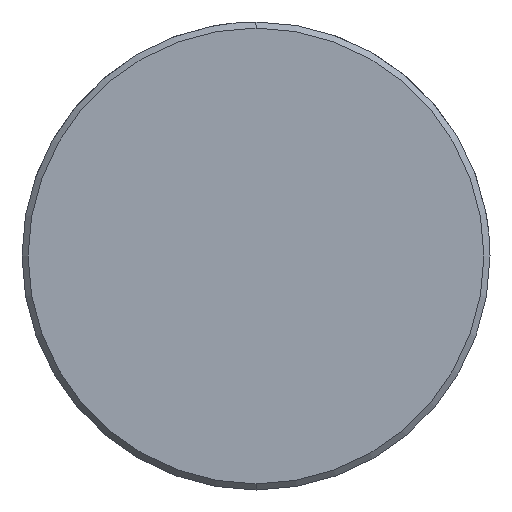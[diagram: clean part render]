
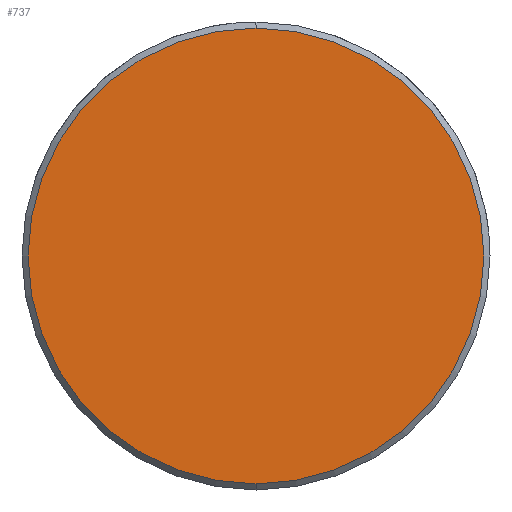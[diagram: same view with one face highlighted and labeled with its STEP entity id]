
A CAD part, left-side view. The second image highlights one B-rep face of the part: STEP entity #737.
In plain terms, the highlighted planar face has unit normal (-1, 0, 0).
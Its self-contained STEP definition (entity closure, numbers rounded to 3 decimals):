
#669=CARTESIAN_POINT('Vertex',(0.,0.,-11.2)) ;
#672=CARTESIAN_POINT('Axis2P3D Location',(0.,0.,0.)) ;
#676=CARTESIAN_POINT('Vertex',(0.,11.2,0.)) ;
#679=CARTESIAN_POINT('Axis2P3D Location',(0.,0.,0.)) ;
#683=CARTESIAN_POINT('Vertex',(0.,0.,11.2)) ;
#705=CARTESIAN_POINT('Axis2P3D Location',(0.,0.,0.)) ;
#709=CARTESIAN_POINT('Vertex',(0.,-11.2,0.)) ;
#712=CARTESIAN_POINT('Axis2P3D Location',(0.,0.,0.)) ;
#726=CARTESIAN_POINT('Axis2P3D Location',(0.,0.,0.)) ;
#673=DIRECTION('Axis2P3D Direction',(1.,0.,-0.)) ;
#680=DIRECTION('Axis2P3D Direction',(1.,0.,-0.)) ;
#706=DIRECTION('Axis2P3D Direction',(1.,0.,-0.)) ;
#713=DIRECTION('Axis2P3D Direction',(1.,0.,-0.)) ;
#727=DIRECTION('Axis2P3D Direction',(1.,0.,-0.)) ;
#728=DIRECTION('Axis2P3D XDirection',(-0.,0.,-1.)) ;
#674=AXIS2_PLACEMENT_3D('Circle Axis2P3D',#672,#673,$) ;
#681=AXIS2_PLACEMENT_3D('Circle Axis2P3D',#679,#680,$) ;
#707=AXIS2_PLACEMENT_3D('Circle Axis2P3D',#705,#706,$) ;
#714=AXIS2_PLACEMENT_3D('Circle Axis2P3D',#712,#713,$) ;
#729=AXIS2_PLACEMENT_3D('Plane Axis2P3D',#726,#727,#728) ;
#732=ORIENTED_EDGE('',*,*,#678,.F.) ;
#733=ORIENTED_EDGE('',*,*,#716,.F.) ;
#734=ORIENTED_EDGE('',*,*,#711,.F.) ;
#735=ORIENTED_EDGE('',*,*,#685,.F.) ;
#737=ADVANCED_FACE('549-20X220',(#736),#730,.F.) ;
#675=CIRCLE('generated circle',#674,11.2) ;
#682=CIRCLE('generated circle',#681,11.2) ;
#708=CIRCLE('generated circle',#707,11.2) ;
#715=CIRCLE('generated circle',#714,11.2) ;
#678=EDGE_CURVE('',#670,#677,#675,.T.) ;
#685=EDGE_CURVE('',#677,#684,#682,.T.) ;
#711=EDGE_CURVE('',#684,#710,#708,.T.) ;
#716=EDGE_CURVE('',#710,#670,#715,.T.) ;
#731=EDGE_LOOP('',(#732,#733,#734,#735)) ;
#736=FACE_OUTER_BOUND('',#731,.T.) ;
#730=PLANE('Plane',#729) ;
#670=VERTEX_POINT('',#669) ;
#677=VERTEX_POINT('',#676) ;
#684=VERTEX_POINT('',#683) ;
#710=VERTEX_POINT('',#709) ;
